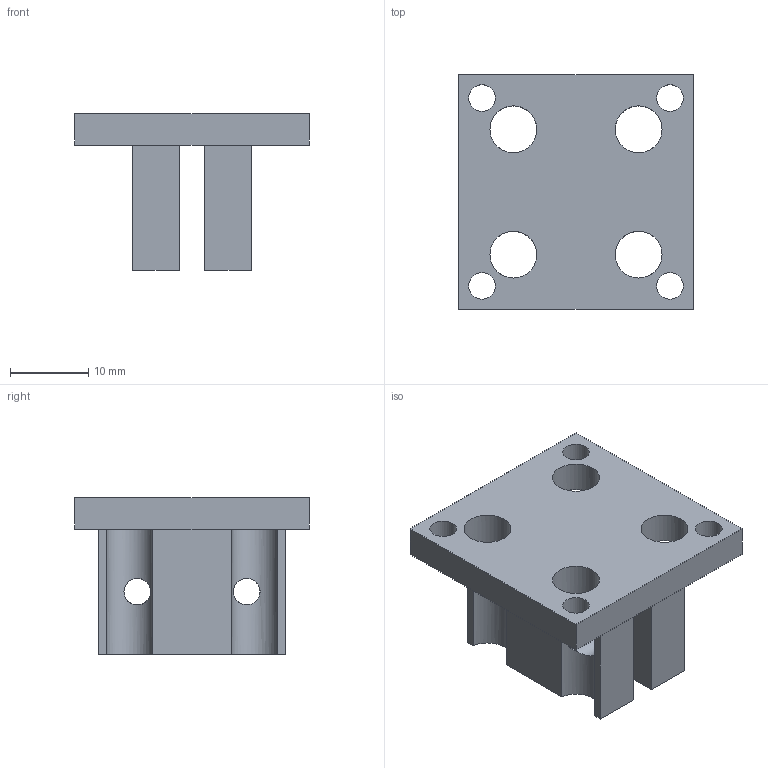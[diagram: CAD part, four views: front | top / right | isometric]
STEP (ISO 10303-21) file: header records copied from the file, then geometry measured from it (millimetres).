
FILE_DESCRIPTION(('Open CASCADE Model'),'2;1');
FILE_NAME('Open CASCADE Shape Model','2026-09-11T00:16:40',('Author'),( 'Open CASCADE'),'Open CASCADE STEP processor 7.9','Open CASCADE 7.9' ,'Unknown');
FILE_SCHEMA(('AUTOMOTIVE_DESIGN { 1 0 10303 214 1 1 1 1 }'));
Length unit declared in the file: millimetre
Products named in the file (1): Open CASCADE STEP translator 7.9 13
Bounding box: 30 x 30 x 20 mm (x, y, z)
Volume: 6723.3 mm3; surface area: 4633.6 mm2
Topology: 1 solids, 1 shells, 32 faces, 102 edges, 68 vertices
Faces by surface type: plane 20, cylinder 12
Full cylindrical faces by diameter (mm): 3.4 x8, 6 x4
Entity records: 4128 total; most frequent: CARTESIAN_POINT 2181, DIRECTION 332, LINE 210, VECTOR 210, ORIENTED_EDGE 204, PCURVE 204, DEFINITIONAL_REPRESENTATION 204, EDGE_CURVE 102
